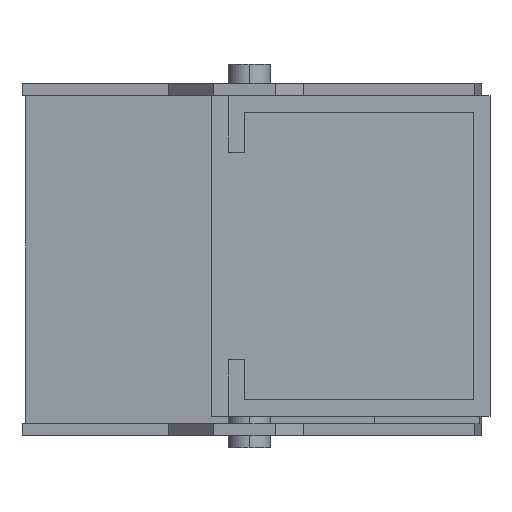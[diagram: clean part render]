
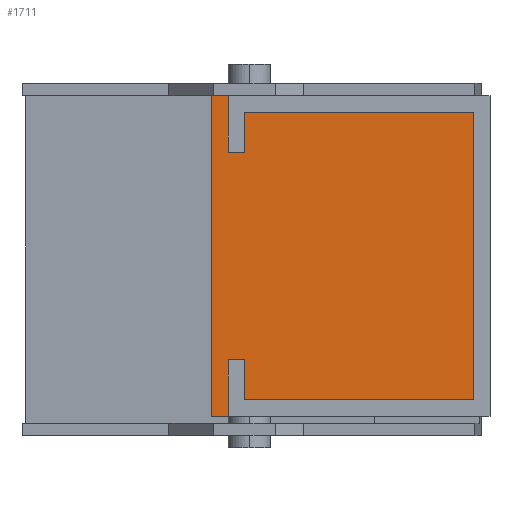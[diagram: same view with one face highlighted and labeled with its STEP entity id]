
A CAD part, left-side view. The second image highlights one B-rep face of the part: STEP entity #1711.
In plain terms, the highlighted planar face has unit normal (-1, 0, 0).
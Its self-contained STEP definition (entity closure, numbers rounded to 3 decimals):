
#34 = DIRECTION ( 'NONE',  ( 0., 0., 1. ) ) ;
#61 = DIRECTION ( 'NONE',  ( 0., 1., 0. ) ) ;
#106 = DIRECTION ( 'NONE',  ( 1., 0., 0. ) ) ;
#187 = CARTESIAN_POINT ( 'NONE',  ( -16.3, 18.6, -22.8 ) ) ;
#296 = CARTESIAN_POINT ( 'NONE',  ( -16.3, -18.7, 22.8 ) ) ;
#432 = VERTEX_POINT ( 'NONE', #187 ) ;
#447 = ORIENTED_EDGE ( 'NONE', *, *, #1631, .F. ) ;
#468 = VERTEX_POINT ( 'NONE', #509 ) ;
#477 = LINE ( 'NONE', #296, #1703 ) ;
#509 = CARTESIAN_POINT ( 'NONE',  ( -16.3, -18.7, -22.8 ) ) ;
#510 = VERTEX_POINT ( 'NONE', #1499 ) ;
#573 = VECTOR ( 'NONE', #749, 1000. ) ;
#604 = LINE ( 'NONE', #1249, #573 ) ;
#623 = CARTESIAN_POINT ( 'NONE',  ( -16.3, -18.7, 22.8 ) ) ;
#711 = LINE ( 'NONE', #1514, #921 ) ;
#749 = DIRECTION ( 'NONE',  ( 0., 1., 0. ) ) ;
#798 = EDGE_CURVE ( 'NONE', #468, #2009, #477, .T. ) ;
#913 = PLANE ( 'NONE',  #1885 ) ;
#921 = VECTOR ( 'NONE', #61, 1000. ) ;
#941 = DIRECTION ( 'NONE',  ( 0., 0., 1. ) ) ;
#968 = VECTOR ( 'NONE', #34, 1000. ) ;
#1016 = ORIENTED_EDGE ( 'NONE', *, *, #798, .T. ) ;
#1108 = EDGE_LOOP ( 'NONE', ( #447, #1016, #1376, #1159 ) ) ;
#1159 = ORIENTED_EDGE ( 'NONE', *, *, #1348, .F. ) ;
#1249 = CARTESIAN_POINT ( 'NONE',  ( -16.3, -21., -22.8 ) ) ;
#1289 = LINE ( 'NONE', #1590, #968 ) ;
#1348 = EDGE_CURVE ( 'NONE', #432, #510, #1289, .T. ) ;
#1376 = ORIENTED_EDGE ( 'NONE', *, *, #1495, .T. ) ;
#1495 = EDGE_CURVE ( 'NONE', #2009, #510, #711, .T. ) ;
#1499 = CARTESIAN_POINT ( 'NONE',  ( -16.3, 18.6, 22.8 ) ) ;
#1514 = CARTESIAN_POINT ( 'NONE',  ( -16.3, -21., 22.8 ) ) ;
#1539 = DIRECTION ( 'NONE',  ( 0., 0., -1. ) ) ;
#1567 = FACE_OUTER_BOUND ( 'NONE', #1108, .T. ) ;
#1590 = CARTESIAN_POINT ( 'NONE',  ( -16.3, 18.6, -22.8 ) ) ;
#1631 = EDGE_CURVE ( 'NONE', #468, #432, #604, .T. ) ;
#1703 = VECTOR ( 'NONE', #941, 1000. ) ;
#1711 = ADVANCED_FACE ( 'NONE', ( #1567 ), #913, .F. ) ;
#1885 = AXIS2_PLACEMENT_3D ( 'NONE', #1886, #106, #1539 ) ;
#1886 = CARTESIAN_POINT ( 'NONE',  ( -16.3, -21., -72.338 ) ) ;
#2009 = VERTEX_POINT ( 'NONE', #623 ) ;
